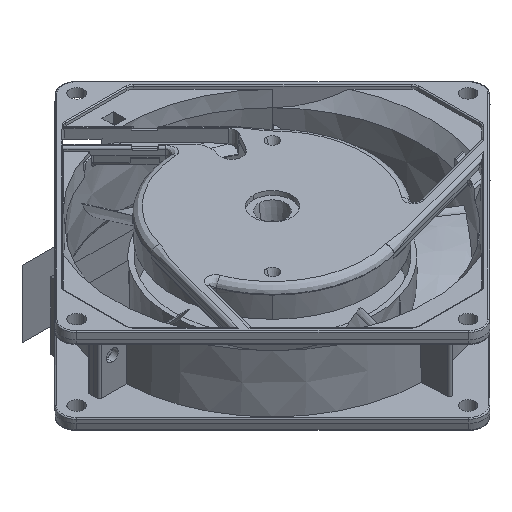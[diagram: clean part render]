
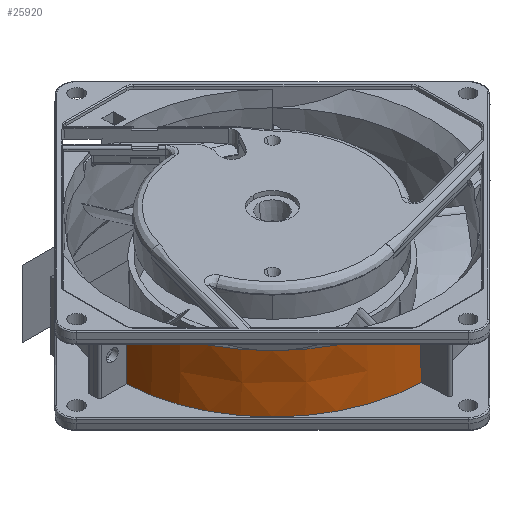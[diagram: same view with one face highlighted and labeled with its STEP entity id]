
A CAD part, isometric view. The second image highlights one B-rep face of the part: STEP entity #25920.
In plain terms, the highlighted conical face has half-angle 1.492 degrees and reference radius 45.217 mm.
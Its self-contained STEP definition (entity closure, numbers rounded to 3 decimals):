
#1257=CARTESIAN_POINT('',(-154.07,0.,-20.199));
#1258=DIRECTION('',(0.,0.,-1.));
#1259=DIRECTION('',(-0.707,-0.707,0.));
#1260=AXIS2_PLACEMENT_3D('',#1257,#1258,#1259);
#1262=CARTESIAN_POINT('',(-154.07,0.,-20.199));
#1263=DIRECTION('',(0.,0.,-1.));
#1264=DIRECTION('',(-0.023,-1.,0.));
#1265=AXIS2_PLACEMENT_3D('',#1262,#1263,#1264);
#7960=CARTESIAN_POINT('',(-155.116,-44.986,
-3.4));
#7961=CARTESIAN_POINT('',(-155.108,-45.132,
-9.));
#7962=CARTESIAN_POINT('',(-155.101,-45.278,
-14.599));
#7963=CARTESIAN_POINT('',(-155.093,-45.424,-20.199));
#7972=CARTESIAN_POINT('',(-154.07,0.,-3.4));
#7973=DIRECTION('',(0.,0.,-1.));
#7974=DIRECTION('',(-0.707,-0.707,0.));
#7975=AXIS2_PLACEMENT_3D('',#7972,#7973,#7974);
#7977=DIRECTION('',(0.026,0.,1.));
#7978=VECTOR('',#7977,16.805);
#7979=CARTESIAN_POINT('',(-199.472,-1.75,-20.199));
#7980=LINE('',#7979,#7978);
#8169=CARTESIAN_POINT('',(-185.886,-31.821,
-3.4));
#8178=CARTESIAN_POINT('',(-154.07,0.,-3.4));
#8179=DIRECTION('',(0.,0.,1.));
#8180=DIRECTION('',(-0.707,-0.707,0.));
#8181=AXIS2_PLACEMENT_3D('',#8178,#8179,#8180);
#11557=VERTEX_POINT('',#8169);
#11738=CARTESIAN_POINT('',(-199.472,-1.75,-20.199));
#11739=VERTEX_POINT('',#11738);
#11740=CARTESIAN_POINT('',(-199.034,-1.75,
-3.4));
#11741=VERTEX_POINT('',#11740);
#11753=CARTESIAN_POINT('',(-155.116,-44.986,
-3.4));
#11754=VERTEX_POINT('',#11753);
#11762=VERTEX_POINT('',#7963);
#11775=CARTESIAN_POINT('',(-186.198,-32.128,-20.199));
#11776=VERTEX_POINT('',#11775);
#25904=CARTESIAN_POINT('',(-154.07,0.,-11.8));
#25905=DIRECTION('',(0.,0.,-1.));
#25906=DIRECTION('',(-0.707,-0.707,0.));
#25907=AXIS2_PLACEMENT_3D('',#25904,#25905,#25906);
#25908=CONICAL_SURFACE('',#25907,45.217,1.492);
#25910=ORIENTED_EDGE('',*,*,#25909,.T.);
#25912=ORIENTED_EDGE('',*,*,#25911,.F.);
#25914=ORIENTED_EDGE('',*,*,#25913,.T.);
#25915=ORIENTED_EDGE('',*,*,#25897,.T.);
#25916=ORIENTED_EDGE('',*,*,#14504,.T.);
#25917=ORIENTED_EDGE('',*,*,#14502,.T.);
#25918=EDGE_LOOP('',(#25910,#25912,#25914,#25915,#25916,#25917));
#25919=FACE_OUTER_BOUND('',#25918,.F.);
#25920=ADVANCED_FACE('',(#25919),#25908,.T.);
#1261=CIRCLE('',#1260,45.436);
#1266=CIRCLE('',#1265,45.436);
#7964=B_SPLINE_CURVE_WITH_KNOTS('',3,(#7960,#7961,#7962,#7963),.UNSPECIFIED.,
.F.,.F.,(4,4),(0.,1.),.UNSPECIFIED.);
#7976=CIRCLE('',#7975,44.998);
#8182=CIRCLE('',#8181,44.998);
#14502=EDGE_CURVE('',#11776,#11739,#1261,.T.);
#14504=EDGE_CURVE('',#11762,#11776,#1266,.T.);
#25897=EDGE_CURVE('',#11754,#11762,#7964,.T.);
#25909=EDGE_CURVE('',#11739,#11741,#7980,.T.);
#25911=EDGE_CURVE('',#11557,#11741,#7976,.T.);
#25913=EDGE_CURVE('',#11557,#11754,#8182,.T.);
